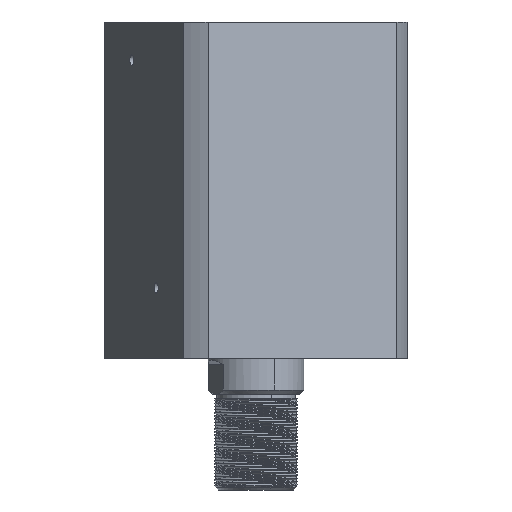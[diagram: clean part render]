
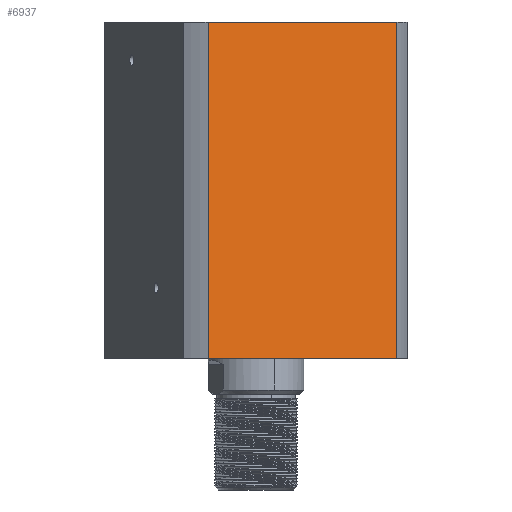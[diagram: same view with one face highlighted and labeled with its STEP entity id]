
A CAD part, front view. The second image highlights one B-rep face of the part: STEP entity #6937.
In plain terms, the highlighted planar face has unit normal (0.383, -0.924, 0) as drawn and (1, 0, 0) by its records, which use the part's own axes.
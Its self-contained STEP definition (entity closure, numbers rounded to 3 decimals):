
#127 = AXIS2_PLACEMENT_3D ( 'NONE', #1025, #3024, #14064 ) ;
#224 = ORIENTED_EDGE ( 'NONE', *, *, #20428, .F. ) ;
#1025 = CARTESIAN_POINT ( 'NONE',  ( 57., 57., 158. ) ) ;
#1140 = VERTEX_POINT ( 'NONE', #1349 ) ;
#1156 = LINE ( 'NONE', #17928, #13739 ) ;
#1349 = CARTESIAN_POINT ( 'NONE',  ( 57., 47.971, 0. ) ) ;
#1933 = DIRECTION ( 'NONE',  ( 0., 1., 0. ) ) ;
#2221 = EDGE_LOOP ( 'NONE', ( #224, #20448, #17408, #17366 ) ) ;
#2296 = VERTEX_POINT ( 'NONE', #6605 ) ;
#2639 = FACE_OUTER_BOUND ( 'NONE', #2221, .T. ) ;
#2890 = LINE ( 'NONE', #16051, #10302 ) ;
#3024 = DIRECTION ( 'NONE',  ( -1., 0., 0. ) ) ;
#3139 = VERTEX_POINT ( 'NONE', #12112 ) ;
#3537 = VECTOR ( 'NONE', #8984, 1000. ) ;
#6605 = CARTESIAN_POINT ( 'NONE',  ( 57., -47.971, 158. ) ) ;
#6844 = CARTESIAN_POINT ( 'NONE',  ( 57., 57., 0. ) ) ;
#6937 = ADVANCED_FACE ( 'NONE', ( #2639 ), #13710, .F. ) ;
#7706 = VERTEX_POINT ( 'NONE', #11611 ) ;
#8253 = DIRECTION ( 'NONE',  ( 0., 0., -1. ) ) ;
#8984 = DIRECTION ( 'NONE',  ( 0., 0., 1. ) ) ;
#10302 = VECTOR ( 'NONE', #1933, 1000. ) ;
#10748 = LINE ( 'NONE', #6844, #19164 ) ;
#11611 = CARTESIAN_POINT ( 'NONE',  ( 57., -47.971, 0. ) ) ;
#11711 = DIRECTION ( 'NONE',  ( 0., 1., 0. ) ) ;
#11977 = EDGE_CURVE ( 'NONE', #2296, #3139, #2890, .T. ) ;
#12112 = CARTESIAN_POINT ( 'NONE',  ( 57., 47.971, 158. ) ) ;
#12853 = EDGE_CURVE ( 'NONE', #3139, #1140, #1156, .T. ) ;
#13710 = PLANE ( 'NONE',  #127 ) ;
#13739 = VECTOR ( 'NONE', #8253, 1000. ) ;
#14064 = DIRECTION ( 'NONE',  ( 0., -1., 0. ) ) ;
#14673 = EDGE_CURVE ( 'NONE', #7706, #1140, #10748, .T. ) ;
#16051 = CARTESIAN_POINT ( 'NONE',  ( 57., 57., 158. ) ) ;
#17366 = ORIENTED_EDGE ( 'NONE', *, *, #11977, .F. ) ;
#17408 = ORIENTED_EDGE ( 'NONE', *, *, #12853, .F. ) ;
#17928 = CARTESIAN_POINT ( 'NONE',  ( 57., 47.971, -142. ) ) ;
#19164 = VECTOR ( 'NONE', #11711, 1000. ) ;
#20015 = CARTESIAN_POINT ( 'NONE',  ( 57., -47.971, -142. ) ) ;
#20365 = LINE ( 'NONE', #20015, #3537 ) ;
#20428 = EDGE_CURVE ( 'NONE', #7706, #2296, #20365, .T. ) ;
#20448 = ORIENTED_EDGE ( 'NONE', *, *, #14673, .T. ) ;
